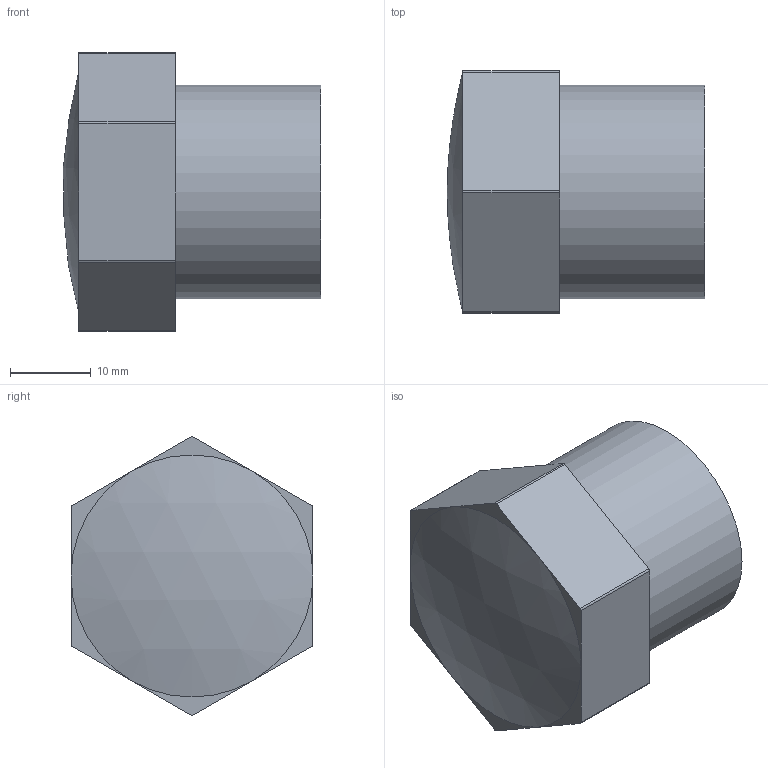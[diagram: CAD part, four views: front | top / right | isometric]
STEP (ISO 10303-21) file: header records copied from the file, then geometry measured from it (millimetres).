
FILE_DESCRIPTION(/* description */ ('PLASSON THREADED PLUG PVC 3/4"'),/* implementation_level */ '2;1');
FILE_NAME(/* name */ 'C:\Dropbox\KIMPROJECTS-Inventor\99-16-3568-Processing\PVC Catalog 2017\051701\051701007.ipt.stp',/* time_stamp */ '2017-12-07T16:01:15+02:00',/* author */ ('KIM'),/* organization */ (''),/* preprocessor_version */ 'ST-DEVELOPER v15.6',/* originating_system */ 'Autodesk Inventor 2015',/* authorisation */ '');
FILE_SCHEMA (('AUTOMOTIVE_DESIGN { 1 0 10303 214 3 1 1 }'));
Length unit declared in the file: millimetre
Products named in the file (1): 051701007
Bounding box: 31.92 x 30 x 34.55 mm (x, y, z)
Volume: 11871.1 mm3; surface area: 5804.1 mm2
Topology: 1 solids, 1 shells, 24 faces, 54 edges, 34 vertices
Faces by surface type: plane 14, cylinder 8, sphere 2
Full cylindrical faces by diameter (mm): 21.153 x1, 26.441 x1
Entity records: 686 total; most frequent: DIRECTION 124, CARTESIAN_POINT 111, ORIENTED_EDGE 104, EDGE_CURVE 52, AXIS2_PLACEMENT_3D 47, VERTEX_POINT 34, LINE 30, VECTOR 30
